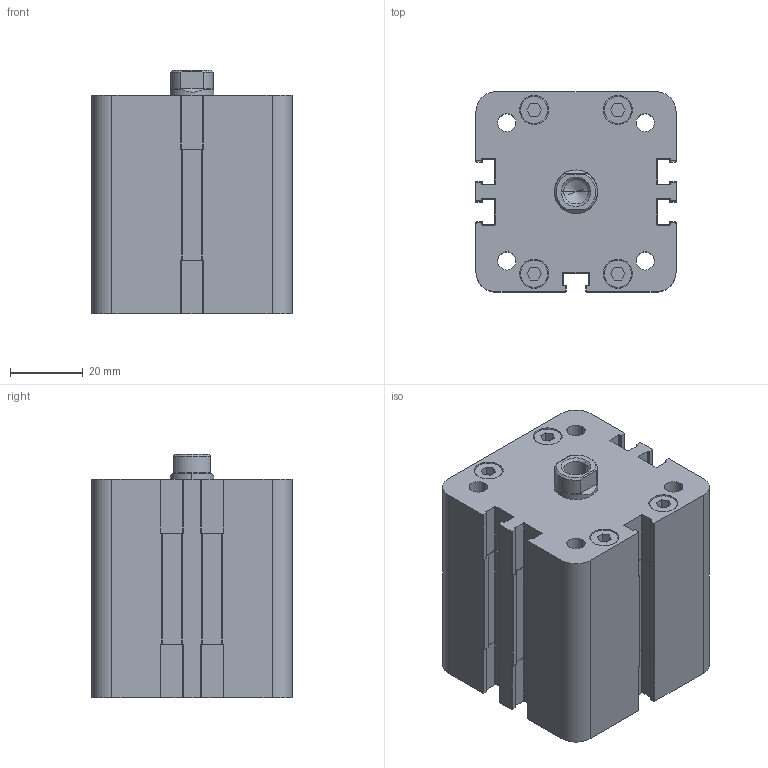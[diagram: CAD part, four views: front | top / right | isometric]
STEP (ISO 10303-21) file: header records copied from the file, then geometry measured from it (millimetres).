
FILE_DESCRIPTION (( 'STEP AP203' ), '1' );
FILE_NAME ('WF0400015A.step', '2013-04-22T07:01:54', ( '' ), ( '' ), 'SwSTEP 2.0', 'SolidWorks 2012', '' );
FILE_SCHEMA (( 'CONFIG_CONTROL_DESIGN' ));
Length unit declared in the file: millimetre
Products named in the file (1): WF0400015A
Bounding box: 55 x 55 x 66.9 mm (x, y, z)
Volume: 163252.3 mm3; surface area: 28967.7 mm2
Topology: 1 solids, 1 shells, 405 faces, 1110 edges, 736 vertices
Faces by surface type: plane 208, cylinder 183, cone 14
Entity records: 13082 total; most frequent: CARTESIAN_POINT 2368, DIRECTION 2277, ORIENTED_EDGE 2216, EDGE_CURVE 1108, AXIS2_PLACEMENT_3D 781, VERTEX_POINT 736, LINE 715, VECTOR 715
